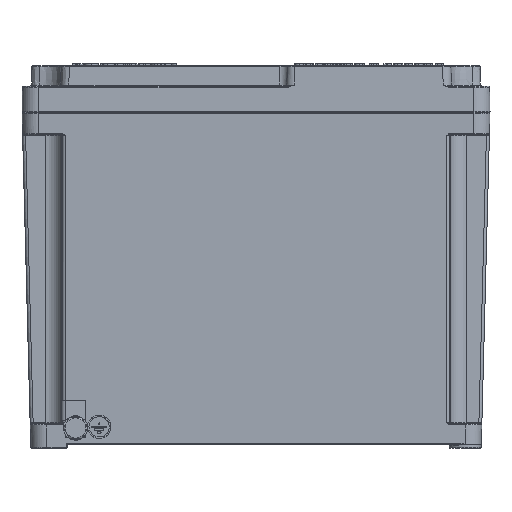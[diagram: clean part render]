
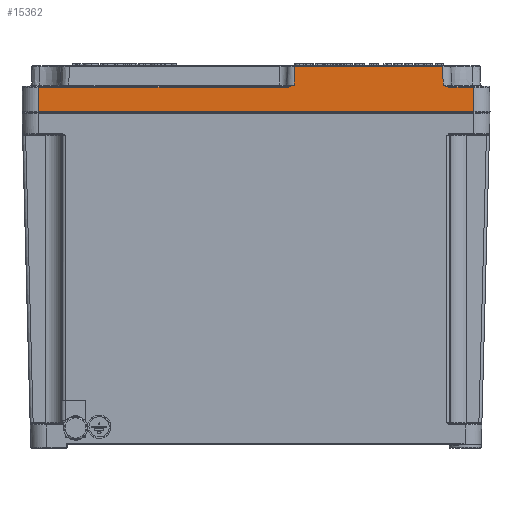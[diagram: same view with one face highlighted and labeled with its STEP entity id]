
A CAD part, left-side view. The second image highlights one B-rep face of the part: STEP entity #15362.
In plain terms, the highlighted planar face has unit normal (-1, 0, 0.015).
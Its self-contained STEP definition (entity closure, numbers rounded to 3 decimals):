
#12613=CARTESIAN_POINT('',(-152.454,-18.87,128.493));
#12614=VERTEX_POINT('',#12613);
#12622=CARTESIAN_POINT('',(-152.323,-19.001,137.507));
#12623=VERTEX_POINT('',#12622);
#12624=CARTESIAN_POINT('',(-152.454,-18.87,128.493));
#12625=DIRECTION('',(0.015,-0.015,1.));
#12626=VECTOR('',#12625,9.016);
#12627=LINE('',#12624,#12626);
#12628=EDGE_CURVE('',#12614,#12623,#12627,.T.);
#12700=CARTESIAN_POINT('',(-152.454,-92.453,128.493));
#12701=VERTEX_POINT('',#12700);
#12717=CARTESIAN_POINT('',(-152.323,-92.322,137.507));
#12718=VERTEX_POINT('',#12717);
#12726=CARTESIAN_POINT('',(-152.323,-92.322,137.507));
#12727=DIRECTION('',(-0.015,-0.015,-1.));
#12728=VECTOR('',#12727,9.016);
#12729=LINE('',#12726,#12728);
#12730=EDGE_CURVE('',#12718,#12701,#12729,.T.);
#13997=CARTESIAN_POINT('',(-152.323,-19.001,137.507));
#13998=DIRECTION('',(0.0,-1.0,0.0));
#13999=VECTOR('',#13998,73.321);
#14000=LINE('',#13997,#13999);
#14001=EDGE_CURVE('',#12623,#12718,#14000,.T.);
#14905=CARTESIAN_POINT('',(-152.643,-107.643,115.507));
#14906=VERTEX_POINT('',#14905);
#14922=CARTESIAN_POINT('',(-152.468,-107.469,127.507));
#14923=VERTEX_POINT('',#14922);
#14931=CARTESIAN_POINT('',(-152.468,-107.469,127.507));
#14932=DIRECTION('',(-0.015,-0.015,-1.));
#14933=VECTOR('',#14932,12.003);
#14934=LINE('',#14931,#14933);
#14935=EDGE_CURVE('',#14923,#14906,#14934,.T.);
#15183=CARTESIAN_POINT('',(-152.468,-95.264,127.507));
#15184=VERTEX_POINT('',#15183);
#15192=CARTESIAN_POINT('',(-152.468,-95.264,127.507));
#15193=DIRECTION('',(0.0,-1.0,0.0));
#15194=VECTOR('',#15193,12.205);
#15195=LINE('',#15192,#15194);
#15196=EDGE_CURVE('',#15184,#14923,#15195,.T.);
#15236=CARTESIAN_POINT('',(-152.454,-92.453,128.493));
#15237=CARTESIAN_POINT('',(-152.454,-92.456,128.491));
#15238=CARTESIAN_POINT('',(-152.454,-92.458,128.49));
#15239=CARTESIAN_POINT('',(-152.457,-92.813,128.3));
#15240=CARTESIAN_POINT('',(-152.461,-93.344,128.018));
#15241=CARTESIAN_POINT('',(-152.466,-94.27,127.642));
#15242=CARTESIAN_POINT('',(-152.468,-94.864,127.507));
#15243=CARTESIAN_POINT('',(-152.468,-95.264,127.507));
#15244=B_SPLINE_CURVE_WITH_KNOTS('',3,(#15236,#15237,#15238,#15239,#15240,#15241,#15242,#15243),.UNSPECIFIED.,.F.,.U.,(4,2,1,1,4),(-0.001,0.0,0.12,0.18,0.3),.UNSPECIFIED.);
#15245=EDGE_CURVE('',#12701,#15184,#15244,.T.);
#15295=CARTESIAN_POINT('',(-152.643,107.643,115.507));
#15296=VERTEX_POINT('',#15295);
#15304=CARTESIAN_POINT('',(-152.468,107.469,127.507));
#15305=VERTEX_POINT('',#15304);
#15306=CARTESIAN_POINT('',(-152.643,107.643,115.507));
#15307=DIRECTION('',(0.015,-0.015,1.));
#15308=VECTOR('',#15307,12.003);
#15309=LINE('',#15306,#15308);
#15310=EDGE_CURVE('',#15296,#15305,#15309,.T.);
#15323=CARTESIAN_POINT('',(-152.65,-115.65,115.0));
#15324=DIRECTION('',(-1.,0.,0.015));
#15325=DIRECTION('',(0.0,-1.0,0.0));
#15326=AXIS2_PLACEMENT_3D('',#15323,#15324,#15325);
#15327=PLANE('',#15326);
#15328=CARTESIAN_POINT('',(-152.643,-107.643,115.507));
#15329=DIRECTION('',(0.0,1.0,0.0));
#15330=VECTOR('',#15329,215.287);
#15331=LINE('',#15328,#15330);
#15332=EDGE_CURVE('',#14906,#15296,#15331,.T.);
#15333=ORIENTED_EDGE('',*,*,#15332,.F.);
#15334=ORIENTED_EDGE('',*,*,#14935,.F.);
#15335=ORIENTED_EDGE('',*,*,#15196,.F.);
#15336=ORIENTED_EDGE('',*,*,#15245,.F.);
#15337=ORIENTED_EDGE('',*,*,#12730,.F.);
#15338=ORIENTED_EDGE('',*,*,#14001,.F.);
#15339=ORIENTED_EDGE('',*,*,#12628,.F.);
#15340=CARTESIAN_POINT('',(-152.468,-16.06,127.507));
#15341=VERTEX_POINT('',#15340);
#15342=CARTESIAN_POINT('',(-152.468,-16.06,127.507));
#15343=CARTESIAN_POINT('',(-152.468,-16.459,127.507));
#15344=CARTESIAN_POINT('',(-152.466,-17.055,127.643));
#15345=CARTESIAN_POINT('',(-152.461,-17.977,128.017));
#15346=CARTESIAN_POINT('',(-152.457,-18.511,128.301));
#15347=CARTESIAN_POINT('',(-152.454,-18.866,128.49));
#15348=CARTESIAN_POINT('',(-152.454,-18.868,128.492));
#15349=CARTESIAN_POINT('',(-152.454,-18.87,128.493));
#15350=B_SPLINE_CURVE_WITH_KNOTS('',3,(#15342,#15343,#15344,#15345,#15346,#15347,#15348,#15349),.UNSPECIFIED.,.F.,.U.,(4,1,1,2,4),(0.0,0.12,0.18,0.299,0.3),.UNSPECIFIED.);
#15351=EDGE_CURVE('',#15341,#12614,#15350,.T.);
#15352=ORIENTED_EDGE('',*,*,#15351,.F.);
#15353=CARTESIAN_POINT('',(-152.468,107.469,127.507));
#15354=DIRECTION('',(0.0,-1.0,0.0));
#15355=VECTOR('',#15354,123.529);
#15356=LINE('',#15353,#15355);
#15357=EDGE_CURVE('',#15305,#15341,#15356,.T.);
#15358=ORIENTED_EDGE('',*,*,#15357,.F.);
#15359=ORIENTED_EDGE('',*,*,#15310,.F.);
#15360=EDGE_LOOP('',(#15333,#15334,#15335,#15336,#15337,#15338,#15339,#15352,#15358,#15359));
#15361=FACE_OUTER_BOUND('',#15360,.T.);
#15362=ADVANCED_FACE('',(#15361),#15327,.T.);
